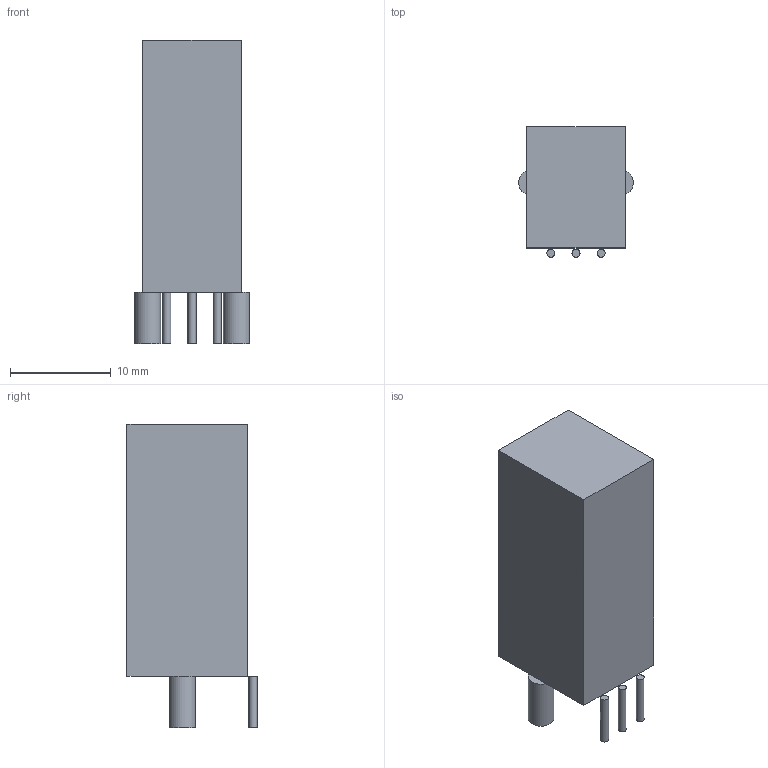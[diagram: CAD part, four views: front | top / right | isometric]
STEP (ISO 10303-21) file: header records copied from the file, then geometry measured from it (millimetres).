
FILE_DESCRIPTION(('FreeCAD Model'),'2;1');
FILE_NAME('/var/www/3D/0T/732610.1.2.stp','2020-04-09T08:05:55',( 'Author'),(''),'Open CASCADE STEP processor 6.9','FreeCAD','Unknown' );
FILE_SCHEMA(('AUTOMOTIVE_DESIGN { 1 0 10303 214 1 1 1 1 }'));
Length unit declared in the file: millimetre
Products named in the file (3): ASSEMBLY; Body; Leads
Assembly tree (6 placements, depth 2):
  ASSEMBLY
    Body
    Leads  x5
Bounding box: 11.37 x 12.9 x 30.1 mm (x, y, z)
Volume: 3243 mm3; surface area: 2048.1 mm2
Topology: 26 solids, 26 shells, 81 faces, 87 edges, 58 vertices
Faces by surface type: plane 56, cylinder 25
Full cylindrical faces by diameter (mm): 0.8 x15, 2.57 x10
Entity records: 908 total; most frequent: DIRECTION 147, CARTESIAN_POINT 127, LINE 61, VECTOR 61, ORIENTED_EDGE 54, PCURVE 54, DEFINITIONAL_REPRESENTATION 54, AXIS2_PLACEMENT_3D 38
